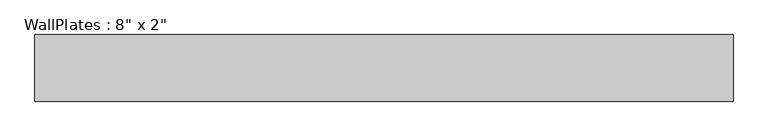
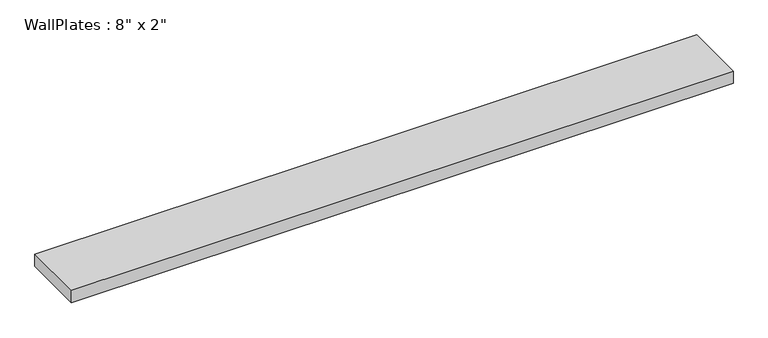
"""IFC4 building model written with IfcOpenShell, lengths in millimetres: beam geometry."""

from ifc_helpers import new_model, si_unit, frame, origin, place, context, project, spatial, polyline, outline, extrude, source, transform, mapped, element, save


def beam_5827d081(model_context):
    return source(origin(), model_context, "Body", "SweptSolid", [
        extrude(outline(polyline([(-965.21, -92.075), (-965.21, 92.075), (965.21, 92.075), (965.21, -92.075), (-965.21, -92.075)])), frame((0.0, 0.0, -19.05), z_axis=(0.0, 0.0, 1.0), x_axis=(1.0, 0.0, 0.0)), (0.0, 0.0, 1.0), 38.1),
    ])


if __name__ == "__main__":
    model = new_model("IFC4")
    model_context = context("Model", 3, world=origin())
    ifc_project = project(units=[si_unit("LENGTHUNIT", "METRE", prefix="MILLI")], contexts=[model_context])
    site = spatial("IfcSite", under=ifc_project)
    building = spatial("IfcBuilding", under=site)
    placement = place(None, origin())
    beam_shape = beam_5827d081(model_context)
    element("IfcBeam", 1, ObjectType="WallPlates : 8\" x 2\"", at=placement, inside=building, context=model_context, shape_type="MappedRepresentation", body=[
        mapped(beam_shape, transform((0.0, 0.0, 0.0), x_axis=(1.0, 0.0, 0.0), y_axis=(0.0, 1.0, 0.0), z_axis=(0.0, 0.0, 1.0))),
    ])
    save(model, "model.ifc")
